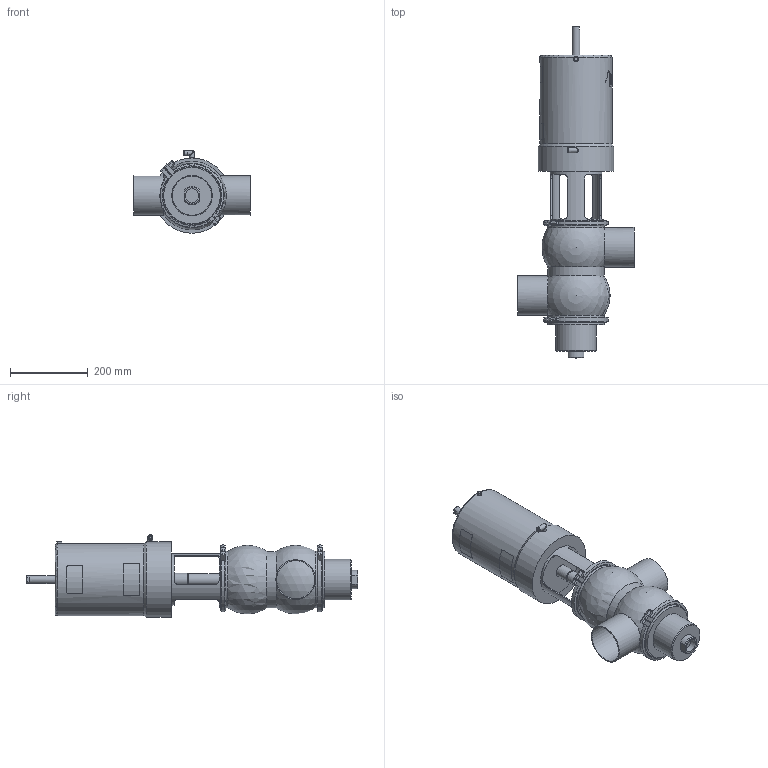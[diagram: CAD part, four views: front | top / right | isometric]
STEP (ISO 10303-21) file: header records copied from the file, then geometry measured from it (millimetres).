
FILE_DESCRIPTION (( 'STEP AP214' ), '1' );
FILE_NAME ('INNOVA S DC-180 W OD 4_10.251.16.0009.STEP', '2024-08-20T10:26:11', ( '' ), ( '' ), 'SwSTEP 2.0', 'SolidWorks 2023', '' );
FILE_SCHEMA (( 'AUTOMOTIVE_DESIGN' ));
Length unit declared in the file: millimetre
Products named in the file (6): 10.250.15.0002_Type S T3; 10.251.15.0001_OD 4"; 10.240.15.0001_DN 100; 10.251.15.0011_OD 4"; 10.251.15.0002_DN 4"; INNOVA S DC-180 W OD 4_10.251.16.0009
Assembly tree (6 placements, depth 2):
  INNOVA S DC-180 W OD 4_10.251.16.0009
    10.251.15.0001_OD 4"
    10.250.15.0002_Type S T3
    10.251.15.0011_OD 4"
    10.240.15.0001_DN 100  x2
    10.251.15.0002_DN 4"
Bounding box: 300 x 851.6 x 211.5 mm (x, y, z)
Volume: 14753438.9 mm3; surface area: 747976.2 mm2
Topology: 6 solids, 6 shells, 419 faces, 1095 edges, 712 vertices
Faces by surface type: plane 200, cylinder 107, bspline 80, cone 27, sphere 4, torus 1
Full cylindrical faces by diameter (mm): 4.2 x2, 5 x1, 6 x1, 6.15 x1, 8 x4, 8.5 x1, 10.5 x2, 12.5 x6, 20 x1, 30.5 x1, 32 x1, 35 x1, 97.4 x2, 101.6 x2, 104 x1, 133 x1, 133.1 x1, 144.5 x3, 145 x1, 156.5 x3, 157 x1, 185 x1, 193 x1
Entity records: 22108 total; most frequent: CARTESIAN_POINT 12100, ORIENTED_EDGE 1718, DIRECTION 1331, EDGE_CURVE 859, VERTEX_POINT 587, AXIS2_PLACEMENT_3D 510, EDGE_LOOP 446, FACE_OUTER_BOUND 399
